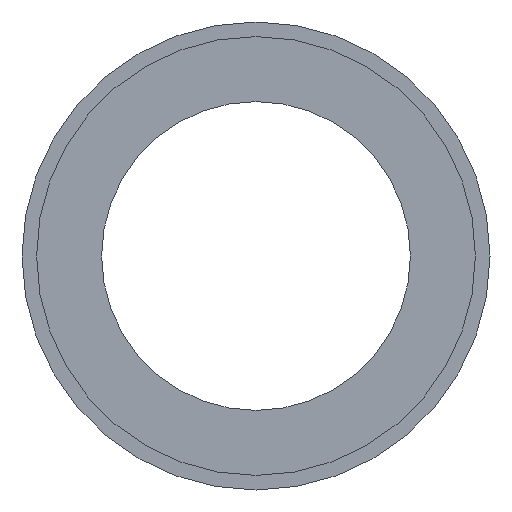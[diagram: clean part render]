
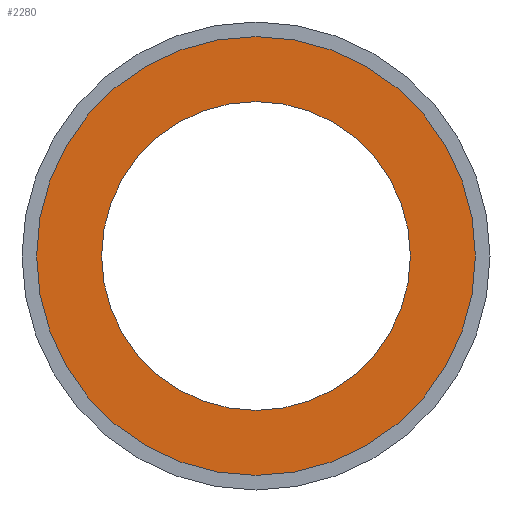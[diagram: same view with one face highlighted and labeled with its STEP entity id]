
A CAD part, front view. The second image highlights one B-rep face of the part: STEP entity #2280.
In plain terms, the highlighted planar face has unit normal (0, -1, 0).
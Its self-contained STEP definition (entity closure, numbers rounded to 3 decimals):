
#115 = CIRCLE ( 'NONE', #1589, 67.5 ) ;
#241 = FACE_OUTER_BOUND ( 'NONE', #3001, .T. ) ;
#625 = DIRECTION ( 'NONE',  ( 0., 0., -1. ) ) ;
#698 = DIRECTION ( 'NONE',  ( 0., 0., -1. ) ) ;
#739 = ORIENTED_EDGE ( 'NONE', *, *, #2253, .F. ) ;
#778 = CARTESIAN_POINT ( 'NONE',  ( 0., -20., 47.5 ) ) ;
#795 = VERTEX_POINT ( 'NONE', #4429 ) ;
#841 = PLANE ( 'NONE',  #2300 ) ;
#847 = ORIENTED_EDGE ( 'NONE', *, *, #2981, .T. ) ;
#967 = EDGE_CURVE ( 'NONE', #795, #3338, #115, .T. ) ;
#1161 = DIRECTION ( 'NONE',  ( 0., 0., -1. ) ) ;
#1589 = AXIS2_PLACEMENT_3D ( 'NONE', #2354, #2714, #625 ) ;
#1804 = ORIENTED_EDGE ( 'NONE', *, *, #4149, .F. ) ;
#1969 = VERTEX_POINT ( 'NONE', #4366 ) ;
#2000 = CARTESIAN_POINT ( 'NONE',  ( 0., -20., 0. ) ) ;
#2171 = DIRECTION ( 'NONE',  ( 0., 0., 1. ) ) ;
#2179 = DIRECTION ( 'NONE',  ( 0., -1., 0. ) ) ;
#2253 = EDGE_CURVE ( 'NONE', #2262, #1969, #3036, .T. ) ;
#2262 = VERTEX_POINT ( 'NONE', #3914 ) ;
#2280 = ADVANCED_FACE ( 'NONE', ( #4453, #241 ), #841, .F. ) ;
#2300 = AXIS2_PLACEMENT_3D ( 'NONE', #778, #3208, #2171 ) ;
#2341 = DIRECTION ( 'NONE',  ( 0., -1., 0. ) ) ;
#2354 = CARTESIAN_POINT ( 'NONE',  ( 0., -20., 0. ) ) ;
#2399 = DIRECTION ( 'NONE',  ( 0., -1., 0. ) ) ;
#2697 = DIRECTION ( 'NONE',  ( 0., 0., -1. ) ) ;
#2714 = DIRECTION ( 'NONE',  ( 0., -1., 0. ) ) ;
#2782 = CARTESIAN_POINT ( 'NONE',  ( 0., -20., 0. ) ) ;
#2981 = EDGE_CURVE ( 'NONE', #3338, #795, #3027, .T. ) ;
#3001 = EDGE_LOOP ( 'NONE', ( #847, #4543 ) ) ;
#3027 = CIRCLE ( 'NONE', #3498, 67.5 ) ;
#3036 = CIRCLE ( 'NONE', #4474, 47.5 ) ;
#3096 = CIRCLE ( 'NONE', #4424, 47.5 ) ;
#3208 = DIRECTION ( 'NONE',  ( 0., 1., 0. ) ) ;
#3218 = CARTESIAN_POINT ( 'NONE',  ( 0., -20., -67.5 ) ) ;
#3338 = VERTEX_POINT ( 'NONE', #3218 ) ;
#3498 = AXIS2_PLACEMENT_3D ( 'NONE', #2000, #2341, #2697 ) ;
#3914 = CARTESIAN_POINT ( 'NONE',  ( 0., -20., 47.5 ) ) ;
#3926 = CARTESIAN_POINT ( 'NONE',  ( 0., -20., 0. ) ) ;
#4149 = EDGE_CURVE ( 'NONE', #1969, #2262, #3096, .T. ) ;
#4217 = EDGE_LOOP ( 'NONE', ( #1804, #739 ) ) ;
#4366 = CARTESIAN_POINT ( 'NONE',  ( 0., -20., -47.5 ) ) ;
#4424 = AXIS2_PLACEMENT_3D ( 'NONE', #2782, #2399, #698 ) ;
#4429 = CARTESIAN_POINT ( 'NONE',  ( 0., -20., 67.5 ) ) ;
#4453 = FACE_BOUND ( 'NONE', #4217, .T. ) ;
#4474 = AXIS2_PLACEMENT_3D ( 'NONE', #3926, #2179, #1161 ) ;
#4543 = ORIENTED_EDGE ( 'NONE', *, *, #967, .T. ) ;
